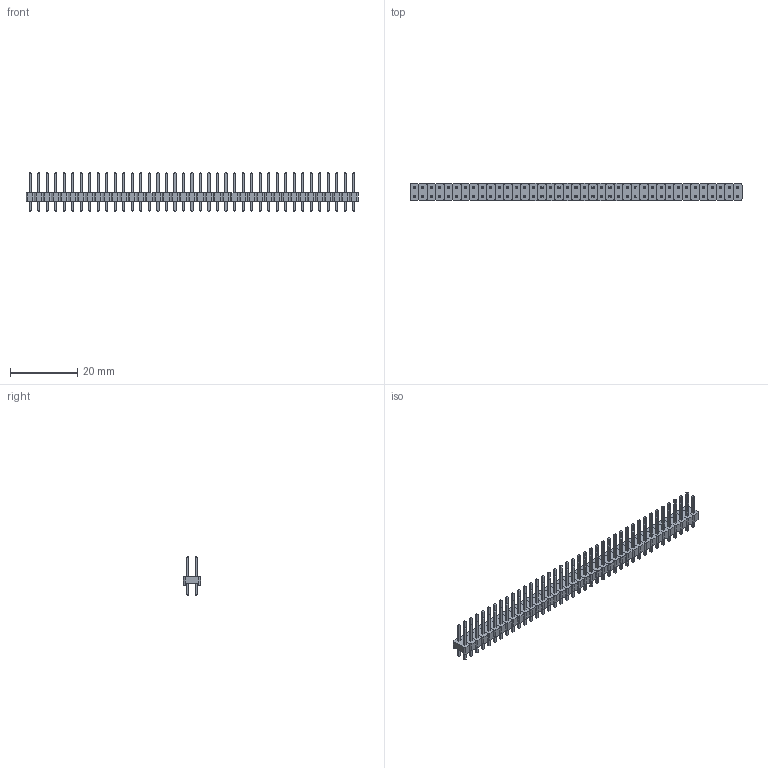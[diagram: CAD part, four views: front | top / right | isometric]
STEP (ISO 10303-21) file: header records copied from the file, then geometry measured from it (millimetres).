
FILE_DESCRIPTION(('FreeCAD Model'),'2;1');
FILE_NAME('Open CASCADE Shape Model','2022-03-28T14:39:10',( 'Engenharia Metaltex'),('Metaltex'), 'Open CASCADE STEP processor 7.5','FreeCAD','Unknown');
FILE_SCHEMA(('AUTOMOTIVE_DESIGN { 1 0 10303 214 1 1 1 1 }'));
Length unit declared in the file: millimetre
Products named in the file (157): BPSC; 39; Base038; Pino078; Pino077; 1; Base; Pino1; Pino2; 2; Base001; Pino003; Pino004; 3; Base002; Pino006; Pino005; 4; Base003; Pino008; Pino007; 5; Base004; Pino009; Pino010; 6; Base005; Pino012; Pino011; 7; Base006; Pino013; Pino014; 8; Base007; Pino015; Pino016; 9; Base008; Pino017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
Assembly tree (156 placements, depth 3):
  BPSC
    39
      Base038
      Pino078
      Pino077
    1
      Base
      Pino1
      Pino2
    2
      Base001
      Pino003
      Pino004
    3
      Base002
      Pino006
      Pino005
    4
      Base003
      Pino008
      Pino007
    5
      Base004
      Pino009
      Pino010
    6
      Base005
      Pino012
      Pino011
    7
      Base006
      Pino013
      Pino014
    8
      Base007
      Pino015
      Pino016
    9
      Base008
      Pino017
      Pino018
    10
      Base009
      Pino019
      Pino020
    11
      Base010
      Pino021
      Pino022
    12
      Base011
      Pino023
      Pino024
    13
      Base012
      Pino025
      Pino026
    14
      Base013
      Pino027
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Bounding box: 99.06 x 5.08 x 11.54 mm (x, y, z)
Volume: 1361.9 mm3; surface area: 5016.6 mm2
Topology: 117 solids, 117 shells, 1950 faces, 4524 edges, 2808 vertices
Faces by surface type: plane 1794, cylinder 156
Entity records: 117019 total; most frequent: CARTESIAN_POINT 19423, DIRECTION 17942, LINE 12948, VECTOR 12948, ORIENTED_EDGE 9048, PCURVE 9048, DEFINITIONAL_REPRESENTATION 9048, EDGE_CURVE 4524
